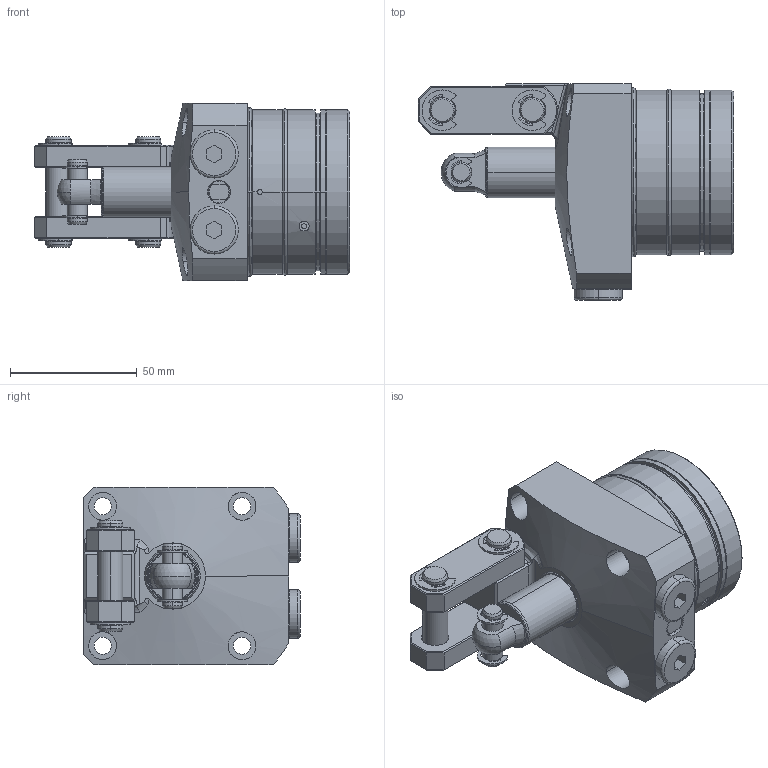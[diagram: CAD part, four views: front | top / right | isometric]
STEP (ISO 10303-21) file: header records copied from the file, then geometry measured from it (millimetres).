
FILE_DESCRIPTION(/* description */ (''),/* implementation_level */ '2;1');
FILE_NAME(/* name */ 'KTPW65-FH.stp',/* time_stamp */ '2022-11-19T16:53:35+08:00',/* author */ (''),/* organization */ (''),/* preprocessor_version */ 'ST-DEVELOPER v16.7',/* originating_system */ 'SIEMENS PLM Software NX 12.0',/* authorisation */ '');
FILE_SCHEMA (('AP203_CONFIGURATION_CONTROLLED_3D_DESIGN_OF_MECHANICAL_PARTS_AND_ASSEMBLIES_MIM_LF { 1 0 10303 403 2 1 2}'));
Length unit declared in the file: millimetre
Products named in the file (11): KTPW65-FH-01; KTPW65-FH-06; KTPW65-FH-07; KTPW65-FH-02; KTPW65-FH-04; KTPW65-FH-03; KTPW65-FH-05; KTPW65-FH-09; KTPW65-FH-010; KTPW65-FH-08; KTPC65-FH_stp
Assembly tree (19 placements, depth 2):
  KTPC65-FH_stp
    KTPW65-FH-08  x4
    KTPW65-FH-010  x3
    KTPW65-FH-09  x2
    KTPW65-FH-05  x2
    KTPW65-FH-03
    KTPW65-FH-04  x2
    KTPW65-FH-02
    KTPW65-FH-07  x2
    KTPW65-FH-06
    KTPW65-FH-01
Bounding box: 124.5 x 85.5 x 70 mm (x, y, z)
Volume: 309171.7 mm3; surface area: 62771.8 mm2
Topology: 21 solids, 21 shells, 687 faces, 1593 edges, 987 vertices
Faces by surface type: cylinder 266, plane 205, torus 125, cone 79, bspline 10, sphere 2
Full cylindrical faces by diameter (mm): 65 x1
Entity records: 14273 total; most frequent: CARTESIAN_POINT 2980, DIRECTION 2243, ORIENTED_EDGE 1906, EDGE_CURVE 953, AXIS2_PLACEMENT_3D 937, VERTEX_POINT 587, CIRCLE 505, EDGE_LOOP 476
